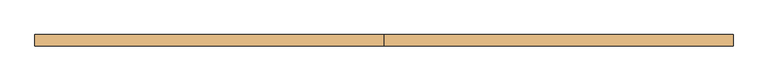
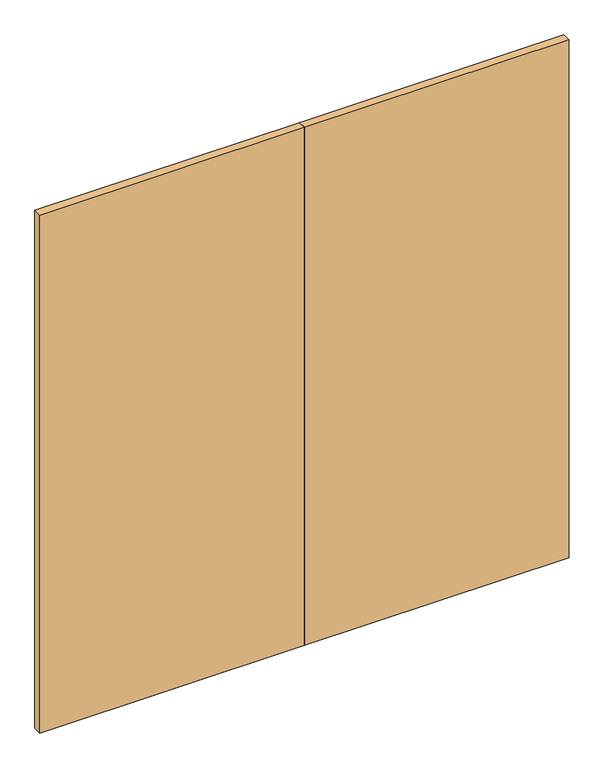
"""IFC4 building model written with IfcOpenShell, lengths in millimetres: door geometry, 営_両開き扉 : SD2 2500*2585."""

from ifc_helpers import new_model, si_unit, origin, origin_with_axes, place, context, project, spatial, polyline, outline, extrude, source, transform, mapped, element, save


def door_6b55382e(model_context):
    return source(origin(), model_context, "Body", "SweptSolid", [
        extrude(outline(polyline([(0.0, -40.0), (1250.0, -40.0), (1250.0, -80.0), (0.0, -80.0), (0.0, -40.0)])), origin_with_axes(), (0.0, 0.0, 1.0), 2585.0),
        extrude(outline(polyline([(0.0, -40.0), (0.0, -80.0), (-1250.0, -80.0), (-1250.0, -40.0), (0.0, -40.0)])), origin_with_axes(), (0.0, 0.0, 1.0), 2585.0),
    ])


if __name__ == "__main__":
    model = new_model("IFC4")
    model_context = context("Model", 3, world=origin())
    ifc_project = project(units=[si_unit("LENGTHUNIT", "METRE", prefix="MILLI")], contexts=[model_context])
    site = spatial("IfcSite", under=ifc_project)
    building = spatial("IfcBuilding", under=site)
    placement = place(None, origin())
    door_shape = door_6b55382e(model_context)
    element("IfcDoor", 1, ObjectType="営_両開き扉 : SD2 2500*2585", at=placement, inside=building, context=model_context, shape_type="MappedRepresentation", body=[
        mapped(door_shape, transform((0.0, 0.0, 0.0), x_axis=(1.0, 0.0, 0.0), y_axis=(0.0, 1.0, 0.0), z_axis=(0.0, 0.0, 1.0))),
    ])
    save(model, "model.ifc")
